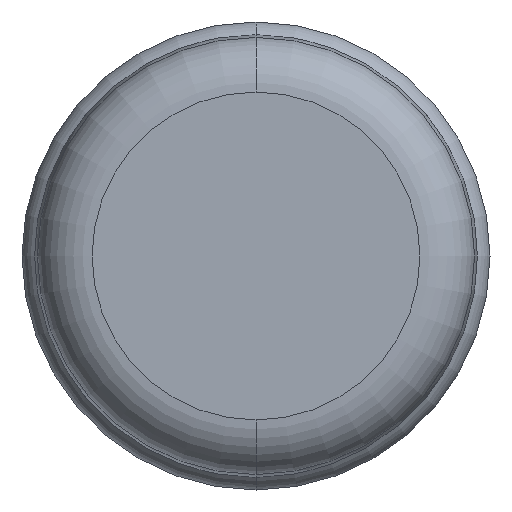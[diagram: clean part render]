
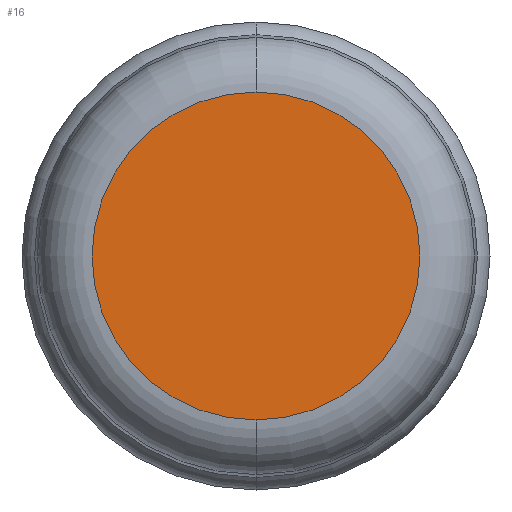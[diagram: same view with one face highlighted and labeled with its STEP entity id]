
A CAD part, front view. The second image highlights one B-rep face of the part: STEP entity #16.
In plain terms, the highlighted planar face has unit normal (0, -1, 0).
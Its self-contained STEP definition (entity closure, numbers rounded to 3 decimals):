
#16 = ADVANCED_FACE ( 'NONE', ( #79 ), #439, .T. ) ;
#33 = CIRCLE ( 'NONE', #226, 3. ) ;
#65 = DIRECTION ( 'NONE',  ( 0., -1., 0. ) ) ;
#79 = FACE_OUTER_BOUND ( 'NONE', #304, .T. ) ;
#90 = EDGE_CURVE ( 'NONE', #138, #419, #125, .T. ) ;
#93 = AXIS2_PLACEMENT_3D ( 'NONE', #448, #343, #153 ) ;
#107 = DIRECTION ( 'NONE',  ( 0., 0., -1. ) ) ;
#115 = ORIENTED_EDGE ( 'NONE', *, *, #197, .T. ) ;
#125 = CIRCLE ( 'NONE', #93, 3. ) ;
#138 = VERTEX_POINT ( 'NONE', #223 ) ;
#153 = DIRECTION ( 'NONE',  ( 0., 0., -1. ) ) ;
#164 = CARTESIAN_POINT ( 'NONE',  ( 0., -13.989, 3. ) ) ;
#197 = EDGE_CURVE ( 'NONE', #419, #138, #33, .T. ) ;
#223 = CARTESIAN_POINT ( 'NONE',  ( 0., -13.989, -3. ) ) ;
#226 = AXIS2_PLACEMENT_3D ( 'NONE', #338, #65, #107 ) ;
#256 = DIRECTION ( 'NONE',  ( 0., -1., 0. ) ) ;
#262 = ORIENTED_EDGE ( 'NONE', *, *, #90, .T. ) ;
#304 = EDGE_LOOP ( 'NONE', ( #262, #115 ) ) ;
#338 = CARTESIAN_POINT ( 'NONE',  ( 0., -13.989, 0. ) ) ;
#343 = DIRECTION ( 'NONE',  ( 0., -1., 0. ) ) ;
#373 = CARTESIAN_POINT ( 'NONE',  ( 0., -13.989, 0. ) ) ;
#419 = VERTEX_POINT ( 'NONE', #164 ) ;
#434 = DIRECTION ( 'NONE',  ( 0., 0., -1. ) ) ;
#439 = PLANE ( 'NONE',  #483 ) ;
#448 = CARTESIAN_POINT ( 'NONE',  ( 0., -13.989, 0. ) ) ;
#483 = AXIS2_PLACEMENT_3D ( 'NONE', #373, #256, #434 ) ;
